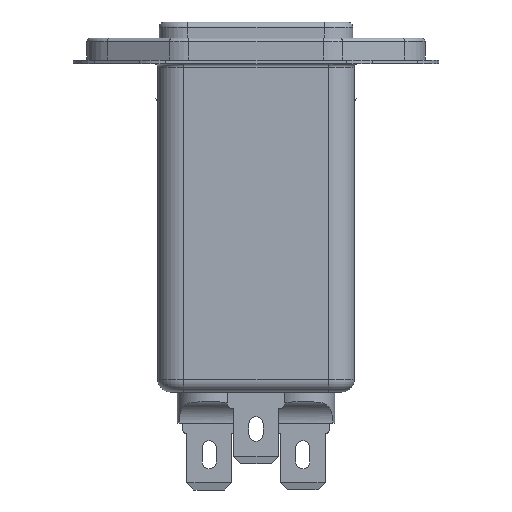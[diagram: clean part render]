
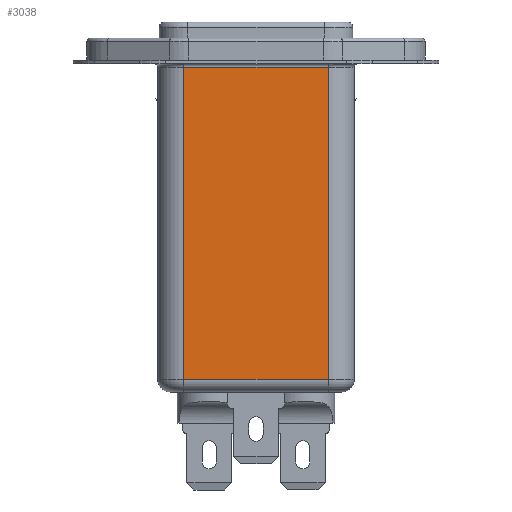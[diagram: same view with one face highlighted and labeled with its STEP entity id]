
A CAD part, left-side view. The second image highlights one B-rep face of the part: STEP entity #3038.
In plain terms, the highlighted planar face has unit normal (-1, 0, 0).
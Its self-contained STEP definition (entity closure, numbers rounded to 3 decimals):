
#2843=CARTESIAN_POINT('',(24.9,51.759,47.8));
#2844=VERTEX_POINT('',#2843);
#2909=CARTESIAN_POINT('',(24.9,31.259,47.8));
#2910=VERTEX_POINT('',#2909);
#2927=CARTESIAN_POINT('',(24.9,51.759,47.8));
#2928=DIRECTION('',(0.0,-1.0,0.0));
#2929=VECTOR('',#2928,20.5);
#2930=LINE('',#2927,#2929);
#2931=EDGE_CURVE('',#2844,#2910,#2930,.T.);
#3008=CARTESIAN_POINT('',(24.9,51.759,48.8));
#3009=DIRECTION('',(-1.0,0.0,0.0));
#3010=DIRECTION('',(0.0,1.0,0.0));
#3011=AXIS2_PLACEMENT_3D('',#3008,#3009,#3010);
#3012=PLANE('',#3011);
#3013=ORIENTED_EDGE('',*,*,#2931,.F.);
#3014=CARTESIAN_POINT('',(24.9,51.759,3.5));
#3015=VERTEX_POINT('',#3014);
#3016=CARTESIAN_POINT('',(24.9,51.759,47.8));
#3017=DIRECTION('',(0.0,0.0,-1.0));
#3018=VECTOR('',#3017,44.3);
#3019=LINE('',#3016,#3018);
#3020=EDGE_CURVE('',#2844,#3015,#3019,.T.);
#3021=ORIENTED_EDGE('',*,*,#3020,.T.);
#3022=CARTESIAN_POINT('',(24.9,31.259,3.5));
#3023=VERTEX_POINT('',#3022);
#3024=CARTESIAN_POINT('',(24.9,31.259,3.5));
#3025=DIRECTION('',(0.0,1.0,0.0));
#3026=VECTOR('',#3025,20.5);
#3027=LINE('',#3024,#3026);
#3028=EDGE_CURVE('',#3023,#3015,#3027,.T.);
#3029=ORIENTED_EDGE('',*,*,#3028,.F.);
#3030=CARTESIAN_POINT('',(24.9,31.259,47.8));
#3031=DIRECTION('',(0.0,0.0,-1.0));
#3032=VECTOR('',#3031,44.3);
#3033=LINE('',#3030,#3032);
#3034=EDGE_CURVE('',#2910,#3023,#3033,.T.);
#3035=ORIENTED_EDGE('',*,*,#3034,.F.);
#3036=EDGE_LOOP('',(#3013,#3021,#3029,#3035));
#3037=FACE_OUTER_BOUND('',#3036,.T.);
#3038=ADVANCED_FACE('',(#3037),#3012,.T.);
